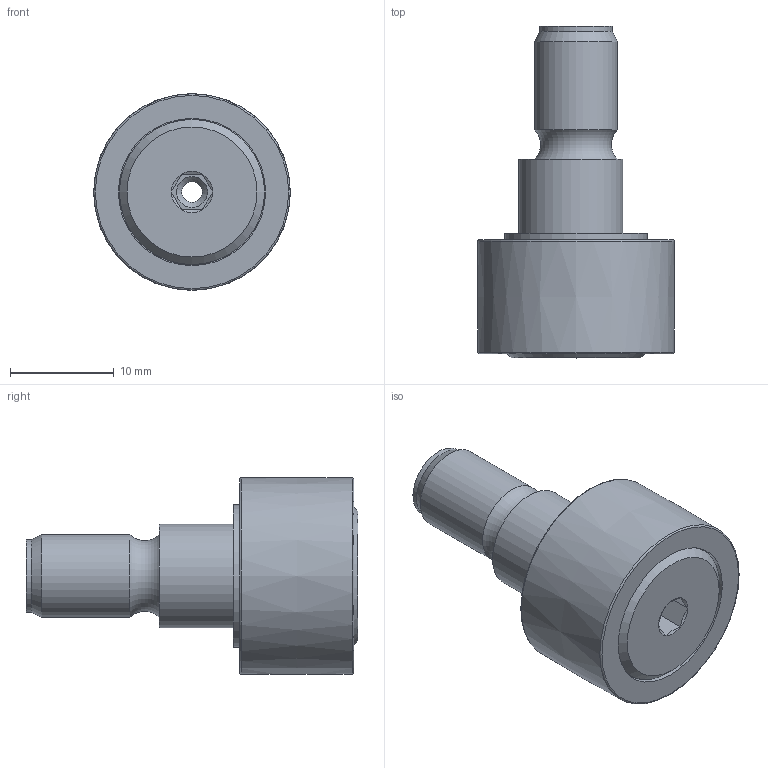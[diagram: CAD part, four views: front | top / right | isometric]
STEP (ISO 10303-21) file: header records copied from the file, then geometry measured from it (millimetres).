
FILE_DESCRIPTION(/* description */ (''),/* implementation_level */ '2;1');
FILE_NAME(/* name */ 'KRE19.stp',/* time_stamp */ '2024-12-04T12:51:49+01:00',/* author */ ('OUPIONTEKM'),/* organization */ (''),/* preprocessor_version */ 'ST-DEVELOPER v20',/* originating_system */ 'Autodesk Inventor 2025',/* authorisation */ '');
FILE_SCHEMA (('AUTOMOTIVE_DESIGN { 1 0 10303 214 3 1 1 }'));
Length unit declared in the file: millimetre
Products named in the file (7): KRV19PP; KRV19PP-02; KRV19PP-needle; KRV19PP-02_1; KRV19PP-seal; KRV19PP-flange; EXCENTER
Assembly tree (17 placements, depth 2):
  KRV19PP
    KRV19PP-02
    KRV19PP-needle  x12
    KRV19PP-02_1
    KRV19PP-seal
    KRV19PP-flange
    EXCENTER
Bounding box: 19 x 32 x 19 mm (x, y, z)
Volume: 4054.1 mm3; surface area: 4902.2 mm2
Topology: 18 solids, 18 shells, 114 faces, 172 edges, 104 vertices
Faces by surface type: plane 58, cylinder 36, cone 16, torus 3, bspline 1
Full cylindrical faces by diameter (mm): 0.75 x1, 1.138 x12, 2 x1, 3 x2, 7 x2, 8 x2, 8.4 x1, 8.6 x1, 9.2 x1, 10 x1, 11.2 x1, 13.477 x1, 13.8 x1, 14 x3, 14.2 x2, 17 x4
Entity records: 2351 total; most frequent: CARTESIAN_POINT 444, DIRECTION 401, ORIENTED_EDGE 278, AXIS2_PLACEMENT_3D 174, EDGE_CURVE 139, EDGE_LOOP 105, VERTEX_POINT 82, FACE_OUTER_BOUND 81
